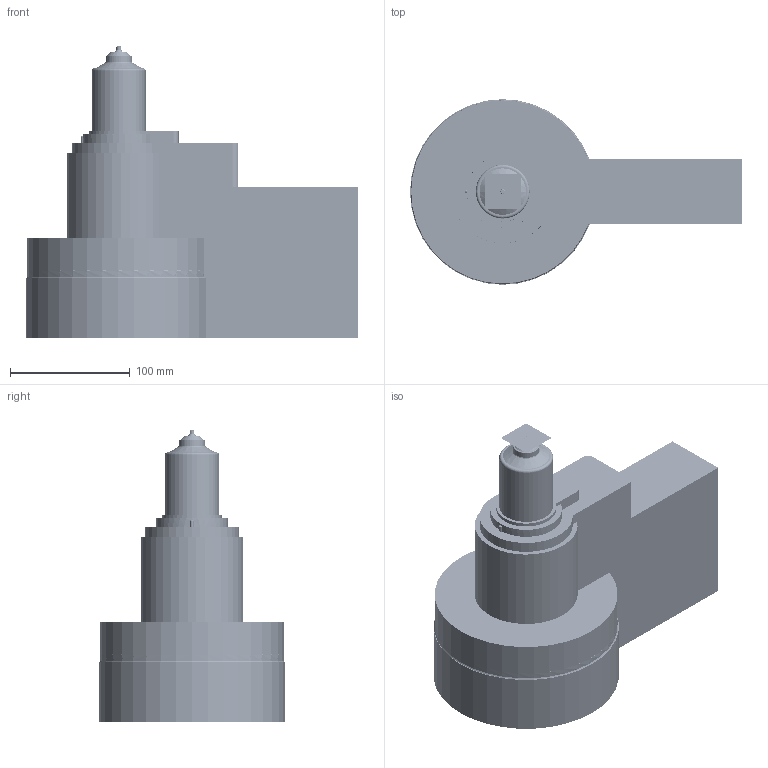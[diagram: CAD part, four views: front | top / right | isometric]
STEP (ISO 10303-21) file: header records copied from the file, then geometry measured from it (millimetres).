
FILE_DESCRIPTION (( 'STEP AP214' ), '1' );
FILE_NAME ('16SVH-06_VSW.STEP', '2021-08-16T06:13:12', ( '' ), ( '' ), 'SwSTEP 2.0', 'SolidWorks 2018', '' );
FILE_SCHEMA (( 'AUTOMOTIVE_DESIGN' ));
Length unit declared in the file: millimetre
Products named in the file (3): cutout_VSW; nozzle_VSW; 16SVH-06_VSW
Assembly tree (2 placements, depth 2):
  16SVH-06_VSW
    nozzle_VSW
    cutout_VSW
Bounding box: 277.5 x 155 x 243.3 mm (x, y, z)
Volume: 3178638.6 mm3; surface area: 605380 mm2
Topology: 1 solids, 86 shells, 3247 faces, 7849 edges, 4809 vertices
Faces by surface type: cylinder 1078, plane 943, cone 539, torus 338, bspline 299, sphere 50
Entity records: 140148 total; most frequent: CARTESIAN_POINT 64091, DIRECTION 15514, ORIENTED_EDGE 15454, EDGE_CURVE 7729, AXIS2_PLACEMENT_3D 6194, VERTEX_POINT 4797, EDGE_LOOP 3675, FACE_OUTER_BOUND 3247
